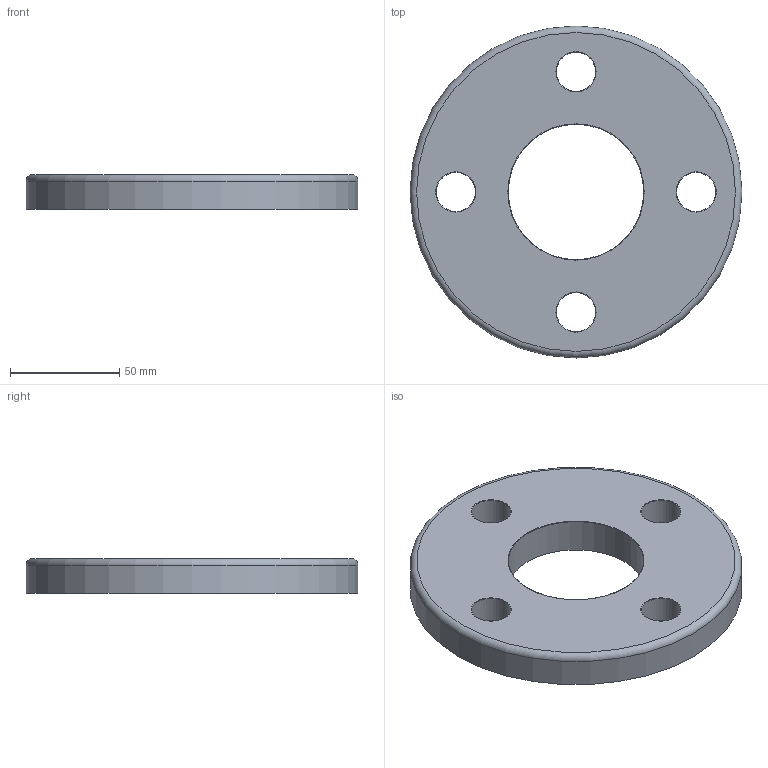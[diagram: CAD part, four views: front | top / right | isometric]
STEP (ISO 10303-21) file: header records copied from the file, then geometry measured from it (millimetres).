
FILE_DESCRIPTION(/* description */ ('PVC-U flangia libera BS 4504 DIN 8063 / PVC-U backing ring drilled to BS 4504 DIN 8063'),/* implementation_level */ '2;1');
FILE_NAME(/* name */ 'C:\Users\POLYPIPE\Desktop\DATASET INVENTOR\LIBRERIA EFFAST\RACCORDI 3DxWEB\RDR\3D_RDRFLD\3D_RDRFLD0500.stp',/* time_stamp */ '2018-01-19T14:22:12+01:00',/* author */ ('POLYPIPE'),/* organization */ ('Polypipe Italia s.r.l.'),/* preprocessor_version */ 'ST-DEVELOPER v16.1',/* originating_system */ 'Autodesk Inventor 2016',/* authorisation */ '');
FILE_SCHEMA (('CONFIG_CONTROL_DESIGN'));
Length unit declared in the file: millimetre
Products named in the file (1): 3D_RDRFLD
Bounding box: 152 x 152 x 16 mm (x, y, z)
Volume: 224824.5 mm3; surface area: 41938.8 mm2
Topology: 1 solids, 1 shells, 14 faces, 30 edges, 18 vertices
Faces by surface type: torus 6, cylinder 6, plane 2
Full cylindrical faces by diameter (mm): 18 x4, 62 x1, 152 x1
Entity records: 368 total; most frequent: DIRECTION 66, CARTESIAN_POINT 51, EDGE_LOOP 36, ORIENTED_EDGE 36, AXIS2_PLACEMENT_3D 33, FACE_BOUND 22, CIRCLE 18, VERTEX_POINT 18
